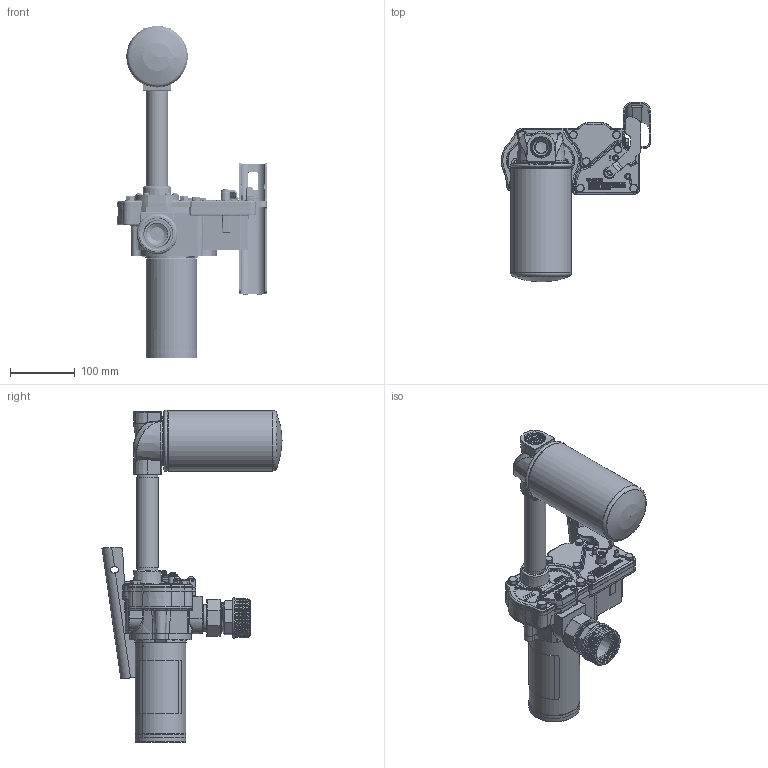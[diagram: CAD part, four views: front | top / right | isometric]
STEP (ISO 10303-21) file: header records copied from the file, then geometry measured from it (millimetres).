
FILE_DESCRIPTION(/* description */ (''),/* implementation_level */ '2;1');
FILE_NAME(/* name */ 'M-180-with filter.stp',/* time_stamp */ '2024-10-21T11:32:13-05:00',/* author */ ('gdanhar'),/* organization */ (''),/* preprocessor_version */ 'ST-DEVELOPER v20',/* originating_system */ 'Autodesk Inventor 2024',/* authorisation */ '');
FILE_SCHEMA (('AUTOMOTIVE_DESIGN { 1 0 10303 214 3 1 1 }'));
Length unit declared in the file: inch
Products named in the file (5): M-180-with filter; M-180S-PO; 904004-84; 129420-07; 129300-01-00
Assembly tree (4 placements, depth 2):
  M-180-with filter
    M-180S-PO
    904004-84
    129420-07
    129300-01-00
Bounding box: 231.19 x 278.59 x 513.75 mm (x, y, z)
Volume: 2571942.5 mm3; surface area: 482851.8 mm2
Topology: 6 solids, 13 shells, 4602 faces, 11986 edges, 7611 vertices
Faces by surface type: plane 1911, bspline 1241, cylinder 674, torus 361, cone 350, sphere 65
Full cylindrical faces by diameter (mm): 1.383 x1, 1.542 x1, 2.184 x4, 3.048 x1, 4.75 x2, 5.105 x2, 6.299 x1, 6.35 x5, 6.388 x1, 6.477 x4, 6.54 x1, 7.925 x6, 9.474 x4, 9.728 x4, 11.125 x6, 11.989 x6, 12.7 x2, 15.494 x3, 19.007 x1, 19.05 x1, 23.109 x4, 25.4 x5, 26.645 x1, 27.94 x1, 29.362 x5, 33.401 x1, 37.846 x2, 37.919 x5, 39.37 x6, 41.25 x1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
Entity records: 245901 total; most frequent: CARTESIAN_POINT 137446, ORIENTED_EDGE 23842, DIRECTION 17700, EDGE_CURVE 11921, VERTEX_POINT 7586, LINE 5938, VECTOR 5938, AXIS2_PLACEMENT_3D 5881
